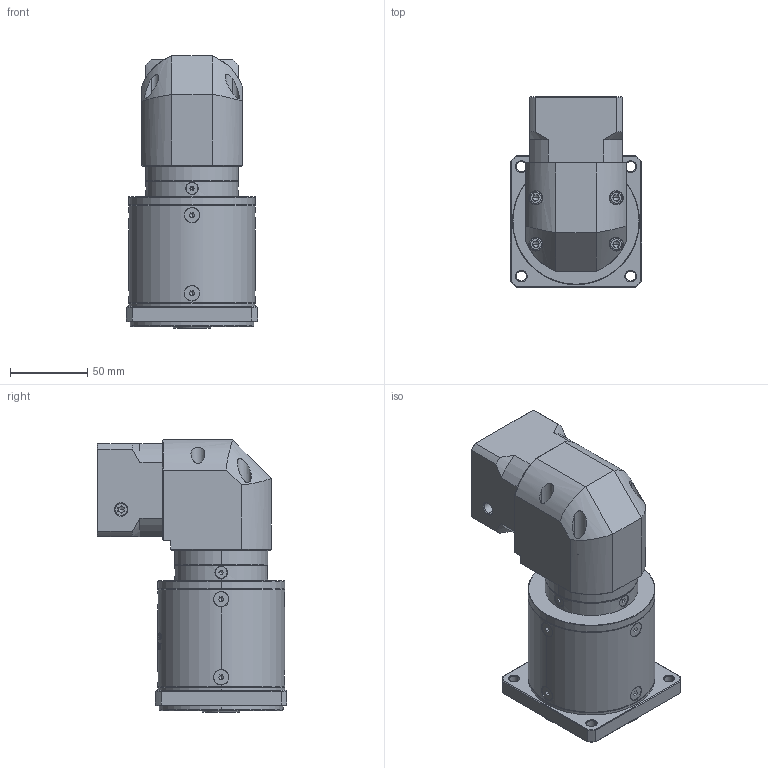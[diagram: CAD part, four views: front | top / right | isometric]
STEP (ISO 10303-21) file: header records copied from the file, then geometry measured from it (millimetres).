
FILE_DESCRIPTION (( 'STEP AP214' ), '1' );
FILE_NAME ('ZFR080-K15-L3-P2-8-30-46-M4.step', '2023-08-25T07:25:56', ( '' ), ( '' ), 'SwSTEP 2.0', 'SolidWorks 2016', '' );
FILE_SCHEMA (( 'AUTOMOTIVE_DESIGN' ));
Length unit declared in the file: millimetre
Products named in the file (1): ZFR080-K15-L3-P2-8-30-46-M4
Bounding box: 85 x 122.7 x 176 mm (x, y, z)
Volume: 878132 mm3; surface area: 107752.1 mm2
Topology: 17 solids, 18 shells, 2470 faces, 6500 edges, 4149 vertices
Faces by surface type: plane 1169, bspline 454, cylinder 428, cone 373, torus 46
Entity records: 146653 total; most frequent: CARTESIAN_POINT 63739, ORIENTED_EDGE 12928, DIRECTION 9758, EDGE_CURVE 6464, VERTEX_POINT 4149, VECTOR 3338, LINE 3338, AXIS2_PLACEMENT_3D 3210
